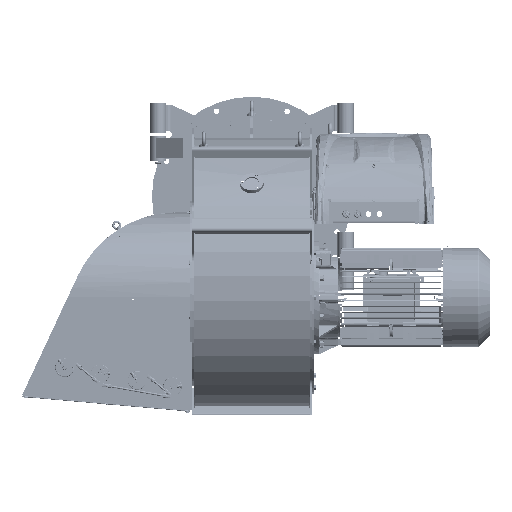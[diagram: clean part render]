
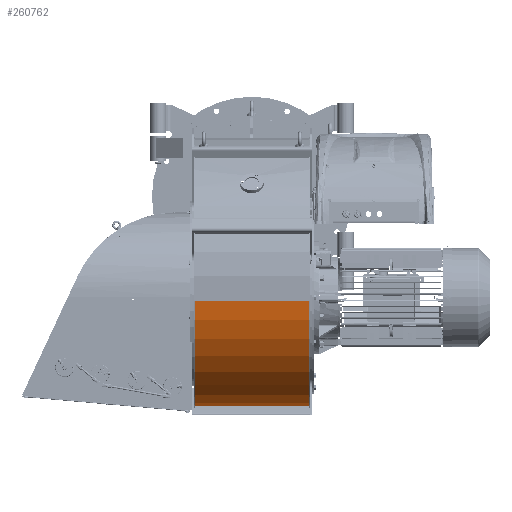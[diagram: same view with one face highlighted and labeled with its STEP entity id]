
A CAD part, top view. The second image highlights one B-rep face of the part: STEP entity #260762.
In plain terms, the highlighted cylindrical face has radius 484.35 mm (diameter 968.7 mm), a partial arc.
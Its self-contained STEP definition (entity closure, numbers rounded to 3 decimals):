
#2809 = DIRECTION ( 'NONE',  ( 1., 0., 0. ) ) ;
#10796 = EDGE_CURVE ( 'NONE', #121683, #168883, #360990, .T. ) ;
#11428 = DIRECTION ( 'NONE',  ( 0., 0., 1. ) ) ;
#21831 = CARTESIAN_POINT ( 'NONE',  ( 226., -413.469, 1132.334 ) ) ;
#24631 = VERTEX_POINT ( 'NONE', #371762 ) ;
#32636 = DIRECTION ( 'NONE',  ( 1., 0., 0. ) ) ;
#46365 = ORIENTED_EDGE ( 'NONE', *, *, #109379, .T. ) ;
#50850 = LINE ( 'NONE', #340619, #455405 ) ;
#67981 = ORIENTED_EDGE ( 'NONE', *, *, #387446, .F. ) ;
#84847 = CARTESIAN_POINT ( 'NONE',  ( -226., -359.5, 651. ) ) ;
#91925 = AXIS2_PLACEMENT_3D ( 'NONE', #199841, #281718, #11428 ) ;
#107505 = AXIS2_PLACEMENT_3D ( 'NONE', #84847, #2809, #281584 ) ;
#109379 = EDGE_CURVE ( 'NONE', #24631, #210577, #366490, .T. ) ;
#121683 = VERTEX_POINT ( 'NONE', #21831 ) ;
#123444 = AXIS2_PLACEMENT_3D ( 'NONE', #154884, #435495, #276124 ) ;
#141150 = ORIENTED_EDGE ( 'NONE', *, *, #10796, .F. ) ;
#154884 = CARTESIAN_POINT ( 'NONE',  ( -226., -359.5, 651. ) ) ;
#168883 = VERTEX_POINT ( 'NONE', #290343 ) ;
#190380 = CARTESIAN_POINT ( 'NONE',  ( -226., -837.013, 569.907 ) ) ;
#199841 = CARTESIAN_POINT ( 'NONE',  ( 226., -359.5, 651. ) ) ;
#210577 = VERTEX_POINT ( 'NONE', #190380 ) ;
#260762 = ADVANCED_FACE ( 'NONE', ( #371498 ), #457885, .T. ) ;
#276124 = DIRECTION ( 'NONE',  ( 0., 0., -1. ) ) ;
#281584 = DIRECTION ( 'NONE',  ( 0., 0., 1. ) ) ;
#281718 = DIRECTION ( 'NONE',  ( 1., 0., 0. ) ) ;
#286749 = EDGE_LOOP ( 'NONE', ( #141150, #67981, #46365, #324496 ) ) ;
#290343 = CARTESIAN_POINT ( 'NONE',  ( 226., -837.013, 569.907 ) ) ;
#311246 = DIRECTION ( 'NONE',  ( 1., 0., 0. ) ) ;
#324496 = ORIENTED_EDGE ( 'NONE', *, *, #399168, .T. ) ;
#340619 = CARTESIAN_POINT ( 'NONE',  ( -226., -413.469, 1132.334 ) ) ;
#360990 = CIRCLE ( 'NONE', #91925, 484.35 ) ;
#366490 = CIRCLE ( 'NONE', #107505, 484.35 ) ;
#371498 = FACE_OUTER_BOUND ( 'NONE', #286749, .T. ) ;
#371762 = CARTESIAN_POINT ( 'NONE',  ( -226., -413.469, 1132.334 ) ) ;
#377334 = LINE ( 'NONE', #469171, #451267 ) ;
#387446 = EDGE_CURVE ( 'NONE', #24631, #121683, #50850, .T. ) ;
#399168 = EDGE_CURVE ( 'NONE', #210577, #168883, #377334, .T. ) ;
#435495 = DIRECTION ( 'NONE',  ( 1., 0., 0. ) ) ;
#451267 = VECTOR ( 'NONE', #311246, 1000. ) ;
#455405 = VECTOR ( 'NONE', #32636, 1000. ) ;
#457885 = CYLINDRICAL_SURFACE ( 'NONE', #123444, 484.35 ) ;
#469171 = CARTESIAN_POINT ( 'NONE',  ( -226., -837.013, 569.907 ) ) ;
